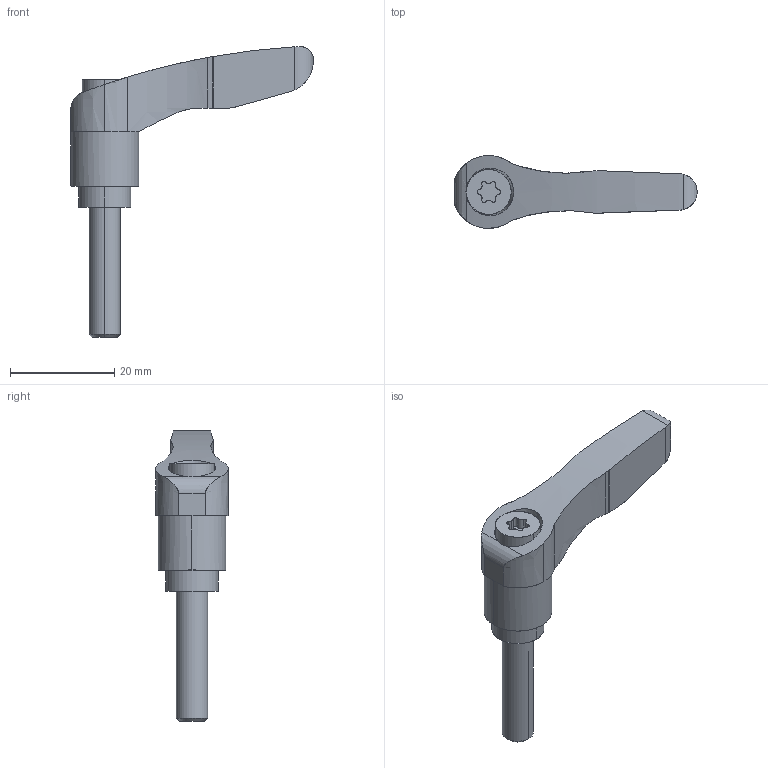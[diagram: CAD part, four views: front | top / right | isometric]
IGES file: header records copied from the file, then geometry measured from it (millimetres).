
Start section: SolidWorks IGES file using analytic representation for surfaces
Global section: file name: X:\11_SW2020-Inv2020\00_全2021-11新製品まで\f\FKR6X25-OG\fkr6x25-og.IGS; native system: SolidWorks 2020; preprocessor: SolidWorks 2020; author: ImaoCorp; date: 211026.091241; units: millimetre
Bounding box: 46.51 x 14 x 55.87 mm (x, y, z)
Surface area: 3010 mm2 (no closed solid volume)
Topology: 0 solids, 0 shells, 62 faces, 918 edges, 918 vertices
Faces by surface type: revolution 48, bspline 14
